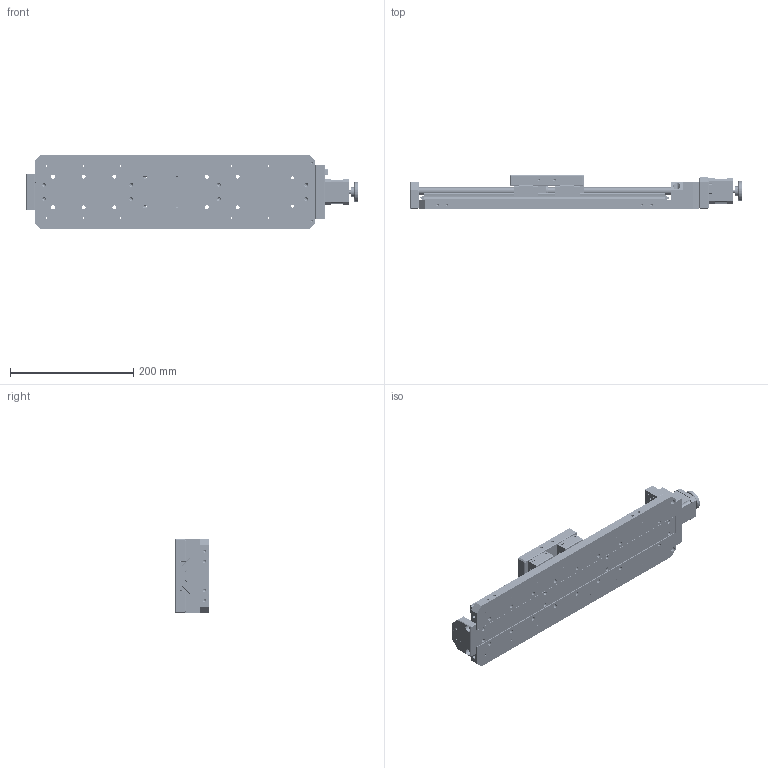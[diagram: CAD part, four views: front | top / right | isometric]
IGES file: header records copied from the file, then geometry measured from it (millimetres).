
Start section: SolidWorks IGES file using analytic representation for surfaces
Global section: file name: C:\Users\dubin\Desktop\9.18\PT-GD140G(250)\PT-GD140G(250).IGS; native system: SolidWorks 2017; preprocessor: SolidWorks 2017; author: PDV; date: 220918.113352; units: millimetre
Bounding box: 539 x 55 x 120 mm (x, y, z)
Surface area: 406652.3 mm2 (no closed solid volume)
Topology: 0 solids, 0 shells, 2282 faces, 33970 edges, 33710 vertices
Faces by surface type: bspline 1172, revolution 1110
